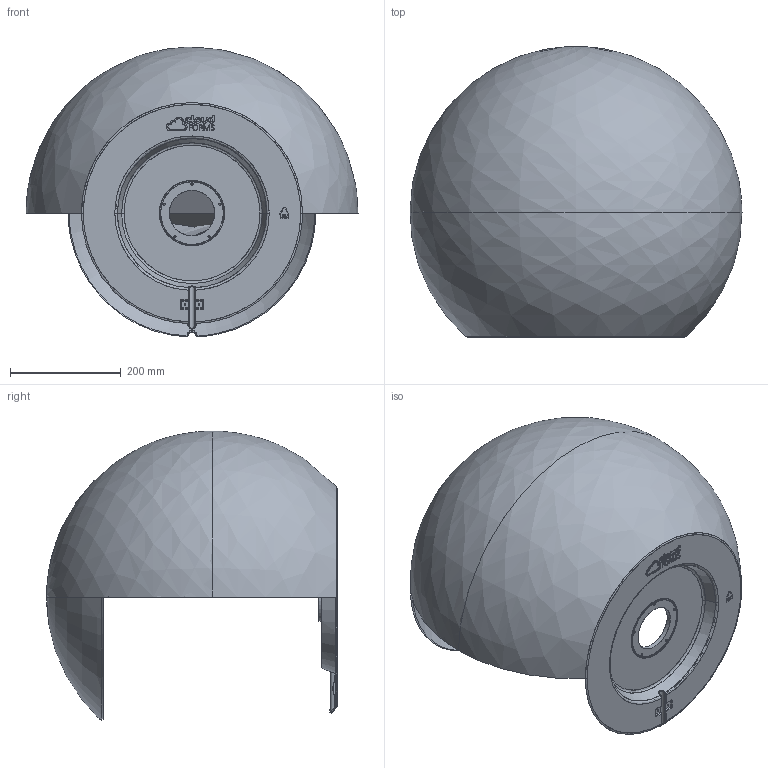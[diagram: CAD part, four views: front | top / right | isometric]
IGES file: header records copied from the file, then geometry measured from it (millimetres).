
Start section: SolidWorks IGES file using analytic representation for surfaces
Global section: file name: E:\....SOLID WORKS\...BORYS\BANKA 2\BANKA\wys³any do bocca\600.IGS; native system: SolidWorks 2016; preprocessor: SolidWorks 2016; author: £ukasz; date: 160506.140831; units: millimetre
Bounding box: 600 x 525.8 x 523.55 mm (x, y, z)
Surface area: 1997233.3 mm2 (no closed solid volume)
Topology: 0 solids, 0 shells, 659 faces, 5504 edges, 5494 vertices
Faces by surface type: bspline 589, revolution 70
